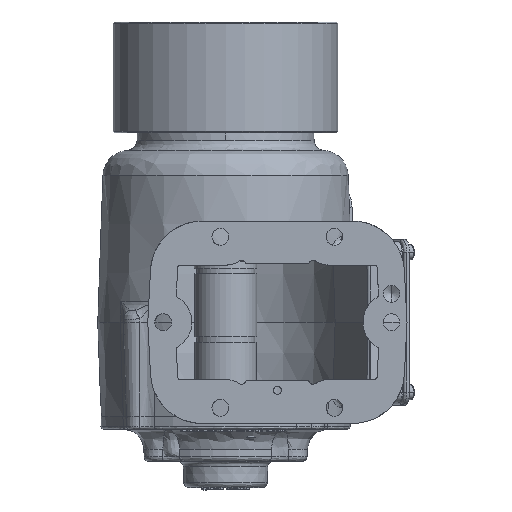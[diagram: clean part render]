
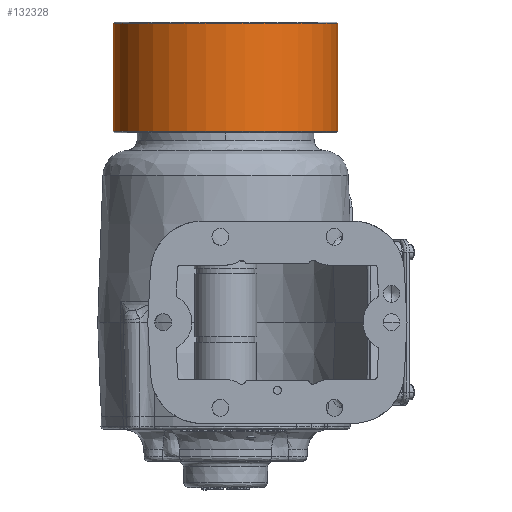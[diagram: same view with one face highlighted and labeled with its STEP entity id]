
A CAD part, front view. The second image highlights one B-rep face of the part: STEP entity #132328.
In plain terms, the highlighted cylindrical face has radius 68.821 mm (diameter 137.643 mm), a partial arc.
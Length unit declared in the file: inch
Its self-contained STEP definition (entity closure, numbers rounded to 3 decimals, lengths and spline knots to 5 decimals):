
#9090 = VERTEX_POINT ( 'NONE', #115674 ) ;
#9850 = DIRECTION ( 'NONE',  ( 1., 0., 0. ) ) ;
#12042 = ORIENTED_EDGE ( 'NONE', *, *, #62561, .F. ) ;
#15871 = CARTESIAN_POINT ( 'NONE',  ( -2.7095, 0., 2.67 ) ) ;
#21041 = AXIS2_PLACEMENT_3D ( 'NONE', #124535, #56030, #32986 ) ;
#24113 = DIRECTION ( 'NONE',  ( 0., 0., -1. ) ) ;
#24544 = AXIS2_PLACEMENT_3D ( 'NONE', #134159, #67187, #9850 ) ;
#25651 = DIRECTION ( 'NONE',  ( 0., 0., -1. ) ) ;
#26901 = VECTOR ( 'NONE', #24113, 39.37008 ) ;
#26938 = DIRECTION ( 'NONE',  ( -1., 0., 0. ) ) ;
#29696 = VERTEX_POINT ( 'NONE', #68601 ) ;
#32986 = DIRECTION ( 'NONE',  ( 1., 0., 0. ) ) ;
#50752 = ORIENTED_EDGE ( 'NONE', *, *, #79009, .T. ) ;
#56030 = DIRECTION ( 'NONE',  ( 0., 0., 1. ) ) ;
#58924 = CARTESIAN_POINT ( 'NONE',  ( 2.7095, 0., 0.031 ) ) ;
#60257 = CIRCLE ( 'NONE', #24544, 2.7095 ) ;
#62561 = EDGE_CURVE ( 'NONE', #29696, #90471, #127657, .T. ) ;
#67187 = DIRECTION ( 'NONE',  ( 0., 0., -1. ) ) ;
#68601 = CARTESIAN_POINT ( 'NONE',  ( 2.7095, 0., 2.639 ) ) ;
#79009 = EDGE_CURVE ( 'NONE', #114637, #9090, #140193, .T. ) ;
#79628 = CARTESIAN_POINT ( 'NONE',  ( -2.7095, 0., 2.639 ) ) ;
#82827 = FACE_OUTER_BOUND ( 'NONE', #98167, .T. ) ;
#84888 = ORIENTED_EDGE ( 'NONE', *, *, #117755, .T. ) ;
#84989 = AXIS2_PLACEMENT_3D ( 'NONE', #128223, #137928, #26938 ) ;
#86646 = EDGE_CURVE ( 'NONE', #9090, #90471, #118467, .T. ) ;
#90471 = VERTEX_POINT ( 'NONE', #58924 ) ;
#94168 = CARTESIAN_POINT ( 'NONE',  ( 2.7095, 0., 2.67 ) ) ;
#98167 = EDGE_LOOP ( 'NONE', ( #12042, #84888, #50752, #121698 ) ) ;
#114637 = VERTEX_POINT ( 'NONE', #79628 ) ;
#115674 = CARTESIAN_POINT ( 'NONE',  ( -2.7095, 0., 0.031 ) ) ;
#117743 = CYLINDRICAL_SURFACE ( 'NONE', #84989, 2.7095 ) ;
#117755 = EDGE_CURVE ( 'NONE', #29696, #114637, #60257, .T. ) ;
#118467 = CIRCLE ( 'NONE', #21041, 2.7095 ) ;
#121698 = ORIENTED_EDGE ( 'NONE', *, *, #86646, .T. ) ;
#124535 = CARTESIAN_POINT ( 'NONE',  ( 0., 0., 0.031 ) ) ;
#127657 = LINE ( 'NONE', #94168, #137533 ) ;
#128223 = CARTESIAN_POINT ( 'NONE',  ( 0., 0., 2.67 ) ) ;
#132328 = ADVANCED_FACE ( 'NONE', ( #82827 ), #117743, .T. ) ;
#134159 = CARTESIAN_POINT ( 'NONE',  ( 0., 0., 2.639 ) ) ;
#137533 = VECTOR ( 'NONE', #25651, 39.37008 ) ;
#137928 = DIRECTION ( 'NONE',  ( 0., 0., -1. ) ) ;
#140193 = LINE ( 'NONE', #15871, #26901 ) ;
